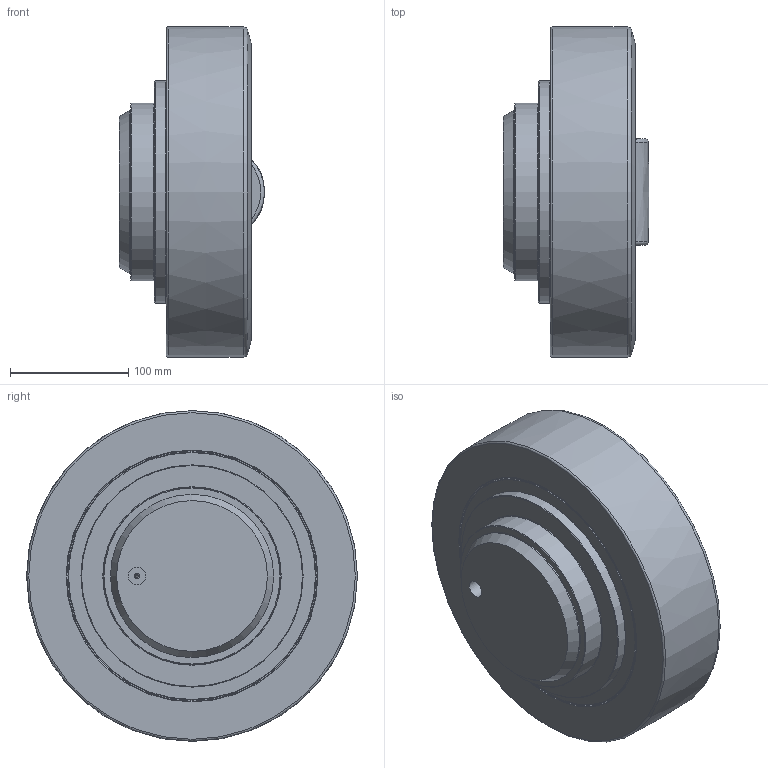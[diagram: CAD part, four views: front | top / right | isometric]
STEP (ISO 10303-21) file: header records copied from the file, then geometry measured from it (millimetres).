
FILE_DESCRIPTION(/* description */ ('-','CAx-IF Rec.Pracs.---Representation and Presentation of Product Manufacturing Information (PMI)---4.0---2014-10-13'),/* implementation_level */ '2;1');
FILE_NAME(/* name */ 'c:\temp\486f3b56-f9ed-44f0-8418-3f85a1d5ce14\b398fb84-3b11-456c-9aa4-46243364a5f7.stp',/* time_stamp */ '2020-04-01T16:10:32+02:00',/* author */ ('-'),/* organization */ ('NTI CADcenter A/S'),/* preprocessor_version */ 'ST-DEVELOPER v18',/* originating_system */ 'Autodesk Inventor 2020',/* authorisation */ '-');
FILE_SCHEMA (('AP242_MANAGED_MODEL_BASED_3D_ENGINEERING_MIM_LF { 1 0 10303 442 1 1 4 }'));
Length unit declared in the file: millimetre
Products named in the file (1): MR 280.0610_Kontur
Bounding box: 123.5 x 279.97 x 280 mm (x, y, z)
Volume: 5067507.5 mm3; surface area: 437529.5 mm2
Topology: 1 solids, 1 shells, 646 faces, 2243 edges, 1195 vertices
Faces by surface type: plane 411, cylinder 201, cone 22, torus 10, bspline 2
Full cylindrical faces by diameter (mm): 2.5 x1, 4 x2, 4.917 x1, 15 x1, 19.5 x6, 138 x1, 150 x1, 173 x1, 188 x1, 197 x4, 210 x4, 212 x4
Entity records: 25380 total; most frequent: DIRECTION 5210, ORIENTED_EDGE 4484, CARTESIAN_POINT 4457, AXIS2_PLACEMENT_3D 2353, EDGE_CURVE 2242, CIRCLE 1708, VERTEX_POINT 1195, EDGE_LOOP 679
